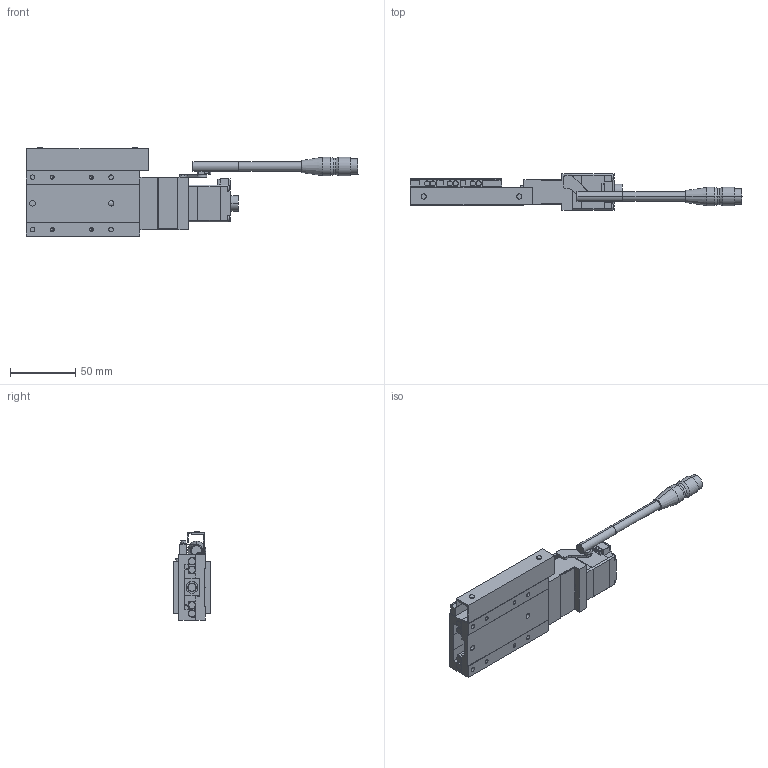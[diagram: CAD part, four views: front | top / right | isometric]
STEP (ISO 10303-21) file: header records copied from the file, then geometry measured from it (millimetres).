
FILE_DESCRIPTION(('STEP AP203'),'1');
FILE_NAME('C:/3D-Trans/3D_PG530T-L□-E+240116.step','2024-02-26T08:00:50',(' '),(' '),'Spatial InterOp 3D',' ',' ');
FILE_SCHEMA(('CONFIG_CONTROL_DESIGN'));
Length unit declared in the file: millimetre
Products named in the file (6): 1; 2; 3; 4; 5; 6
Bounding box: 253.5 x 28 x 67.4 mm (x, y, z)
Volume: 122701.3 mm3; surface area: 57436 mm2
Topology: 6 solids, 6 shells, 686 faces, 1721 edges, 1086 vertices
Faces by surface type: plane 378, cylinder 226, cone 82
Entity records: 20661 total; most frequent: DIRECTION 3653, CARTESIAN_POINT 3517, ORIENTED_EDGE 3402, EDGE_CURVE 1701, AXIS2_PLACEMENT_3D 1270, LINE 1113, VECTOR 1113, VERTEX_POINT 1086
